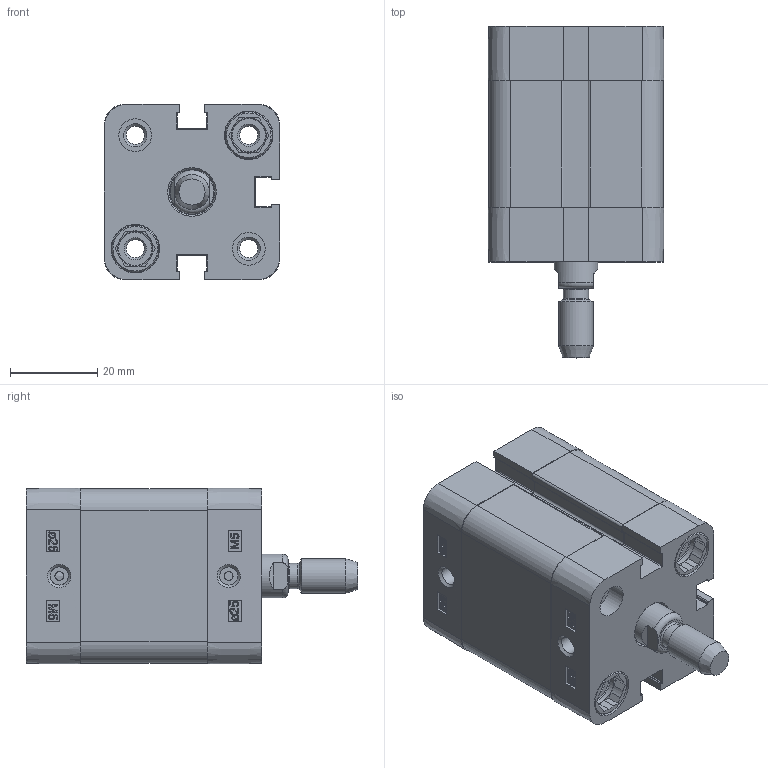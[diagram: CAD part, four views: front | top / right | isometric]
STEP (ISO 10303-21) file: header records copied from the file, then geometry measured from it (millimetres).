
FILE_DESCRIPTION((''),'2;1');
FILE_NAME('T:\Archivio Inventor\- CATALOGHI 2012\SERIE P - NUOVA\PDM\PDM025\PDM025.---.GS.M\PDM025.015.GS.M.stp','2013-01-31T08:05:20',('Administrator'),(''),'Autodesk Inventor 2012','Autodesk Inventor 2012','');
FILE_SCHEMA(('CONFIG_CONTROL_DESIGN'));
Length unit declared in the file: millimetre
Products named in the file (1): PDM025.015.GS.M
Bounding box: 40.3 x 76 x 40.3 mm (x, y, z)
Volume: 54199.7 mm3; surface area: 26526.6 mm2
Topology: 1 solids, 3 shells, 596 faces, 1552 edges, 1017 vertices
Faces by surface type: plane 312, cylinder 130, bspline 92, cone 50, torus 12
Full cylindrical faces by diameter (mm): 2 x2, 4.134 x10, 5.8 x1, 7.5 x4, 7.55 x2, 8 x9, 9 x1, 10 x1, 10.5 x1, 10.8 x4, 11.1 x4, 25 x1, 27.3 x1, 27.5 x1
Entity records: 18782 total; most frequent: CARTESIAN_POINT 4306, ORIENTED_EDGE 2888, DIRECTION 2606, EDGE_CURVE 1444, VERTEX_POINT 1002, VECTOR 898, LINE 898, AXIS2_PLACEMENT_3D 854
